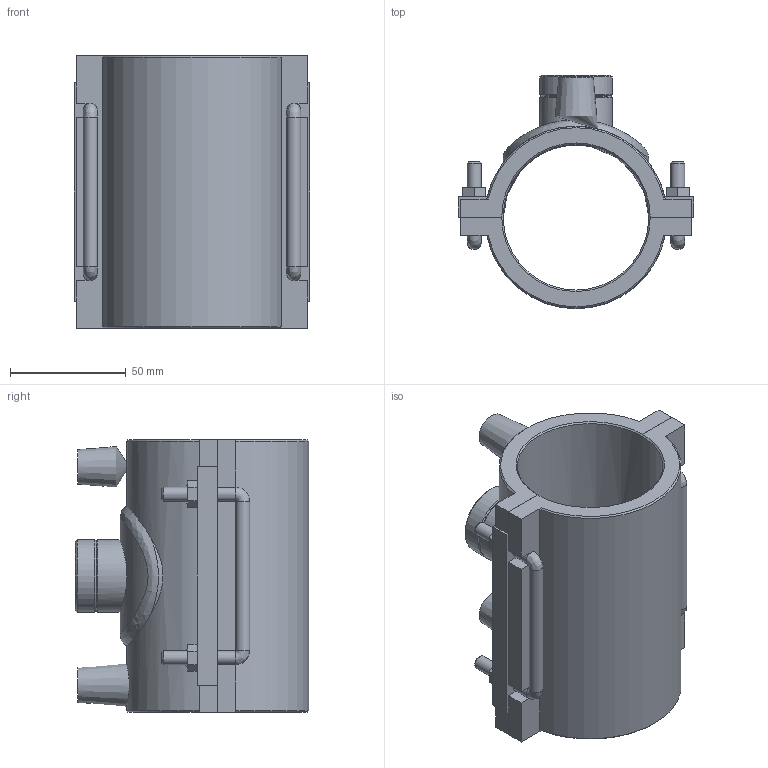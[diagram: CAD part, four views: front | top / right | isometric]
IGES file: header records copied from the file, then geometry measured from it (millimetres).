
Global section: file name: 4958T4063007.ipt; native system: Autodesk Inventor 2015; preprocessor: unknown; author: KIM; date: 20171106.094348; units: millimetre
Bounding box: 102 x 100.88 x 118 mm (x, y, z)
Volume: 265483.4 mm3; surface area: 82799.8 mm2
Topology: 1 solids, 2 shells, 139 faces, 353 edges, 222 vertices
Faces by surface type: plane 82, cylinder 21, revolution 14, cone 13, bspline 9
Full cylindrical faces by diameter (mm): 4 x2, 6 x10, 30.352 x1, 31.352 x2
